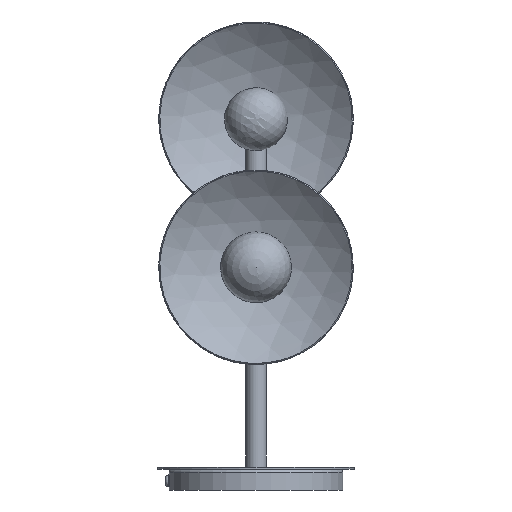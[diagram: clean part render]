
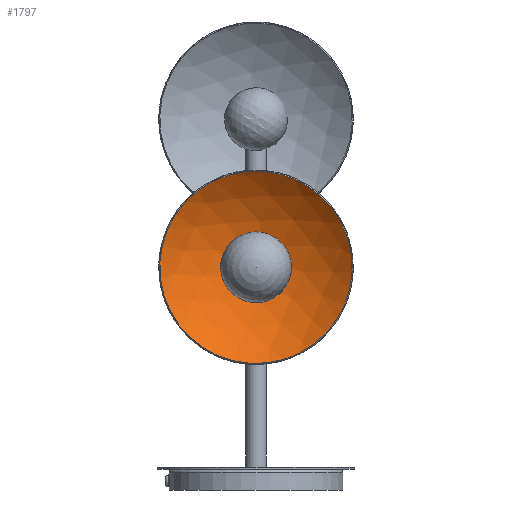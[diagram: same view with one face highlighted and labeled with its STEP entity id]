
A CAD part, front view. The second image highlights one B-rep face of the part: STEP entity #1797.
In plain terms, the highlighted spherical face has radius 90 mm.
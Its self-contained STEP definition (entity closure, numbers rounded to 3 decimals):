
#45=SPHERICAL_SURFACE('',#2069,90.);
#88=FACE_BOUND('',#388,.T.);
#234=FACE_OUTER_BOUND('',#387,.T.);
#387=EDGE_LOOP('',(#1449));
#388=EDGE_LOOP('',(#1450));
#434=B_SPLINE_CURVE_WITH_KNOTS('',3,(#3461,#3462,#3463,#3464,#3465,#3466,
#3467,#3468,#3469,#3470,#3471,#3472,#3473,#3474,#3475,#3476,#3477,#3478,
#3479,#3480,#3481,#3482,#3483,#3484,#3485,#3486,#3487,#3488,#3489,#3490,
#3491,#3492,#3493,#3494,#3495,#3496,#3497,#3498,#3499,#3500,#3501,#3502,
#3503,#3504,#3505,#3506,#3507,#3508,#3509,#3510,#3511,#3512,#3513,#3514,
#3515,#3516,#3517,#3518,#3519,#3520,#3521,#3522,#3523,#3524,#3525,#3526,
#3527,#3528,#3529,#3530,#3531,#3532,#3533,#3534,#3535,#3536,#3537,#3538),
 .UNSPECIFIED.,.T.,.F.,(4,2,2,2,2,2,2,2,2,2,2,2,2,2,2,2,2,2,2,2,2,2,2,2,
2,2,2,2,2,2,2,2,2,2,2,2,2,2,4),(0.,0.153,0.306,
0.459,0.611,0.765,0.919,
1.226,1.535,1.844,2.154,2.464,
2.775,3.086,3.398,3.71,4.022,
4.335,4.648,4.961,5.274,5.587,
5.9,6.212,6.524,6.836,7.147,
7.458,7.769,8.079,8.388,8.697,
9.004,9.158,9.311,9.464,9.617,
9.77,9.922),.UNSPECIFIED.);
#564=CIRCLE('',#2070,60.832);
#818=VERTEX_POINT('',#3460);
#827=VERTEX_POINT('',#3647);
#1026=EDGE_CURVE('',#818,#818,#434,.T.);
#1043=EDGE_CURVE('',#827,#827,#564,.T.);
#1449=ORIENTED_EDGE('',*,*,#1043,.F.);
#1450=ORIENTED_EDGE('',*,*,#1026,.T.);
#1797=ADVANCED_FACE('',(#234,#88),#45,.F.);
#2069=AXIS2_PLACEMENT_3D('',#3646,#2610,#2611);
#2070=AXIS2_PLACEMENT_3D('',#3648,#2612,#2613);
#2610=DIRECTION('center_axis',(-0.919,0.,
0.393));
#2611=DIRECTION('ref_axis',(0.393,0.,0.919));
#2612=DIRECTION('center_axis',(0.,1.,0.));
#2613=DIRECTION('ref_axis',(0.393,0.,0.919));
#3460=CARTESIAN_POINT('',(-23.668,-372.982,132.263));
#3461=CARTESIAN_POINT('Ctrl Pts',(-23.668,-372.982,132.263));
#3462=CARTESIAN_POINT('Ctrl Pts',(-23.536,-372.983,132.755));
#3463=CARTESIAN_POINT('Ctrl Pts',(-23.375,-372.985,133.263));
#3464=CARTESIAN_POINT('Ctrl Pts',(-22.992,-372.987,134.282));
#3465=CARTESIAN_POINT('Ctrl Pts',(-22.772,-372.989,134.793));
#3466=CARTESIAN_POINT('Ctrl Pts',(-22.279,-372.991,135.789));
#3467=CARTESIAN_POINT('Ctrl Pts',(-22.007,-372.993,136.274));
#3468=CARTESIAN_POINT('Ctrl Pts',(-21.429,-372.996,137.197));
#3469=CARTESIAN_POINT('Ctrl Pts',(-21.123,-372.997,137.634));
#3470=CARTESIAN_POINT('Ctrl Pts',(-20.5,-373.,138.445));
#3471=CARTESIAN_POINT('Ctrl Pts',(-20.154,-373.001,138.855));
#3472=CARTESIAN_POINT('Ctrl Pts',(-19.406,-373.004,139.655));
#3473=CARTESIAN_POINT('Ctrl Pts',(-19.004,-373.005,140.044));
#3474=CARTESIAN_POINT('Ctrl Pts',(-17.742,-373.01,141.148));
#3475=CARTESIAN_POINT('Ctrl Pts',(-16.822,-373.013,141.794));
#3476=CARTESIAN_POINT('Ctrl Pts',(-15.041,-373.018,142.817));
#3477=CARTESIAN_POINT('Ctrl Pts',(-14.016,-373.021,143.289));
#3478=CARTESIAN_POINT('Ctrl Pts',(-11.89,-373.027,144.004));
#3479=CARTESIAN_POINT('Ctrl Pts',(-10.789,-373.03,144.248));
#3480=CARTESIAN_POINT('Ctrl Pts',(-8.743,-373.036,144.511));
#3481=CARTESIAN_POINT('Ctrl Pts',(-7.61,-373.039,144.554));
#3482=CARTESIAN_POINT('Ctrl Pts',(-5.36,-373.044,144.397));
#3483=CARTESIAN_POINT('Ctrl Pts',(-4.244,-373.047,144.198));
#3484=CARTESIAN_POINT('Ctrl Pts',(-2.247,-373.052,143.653));
#3485=CARTESIAN_POINT('Ctrl Pts',(-1.182,-373.054,143.256));
#3486=CARTESIAN_POINT('Ctrl Pts',(0.839,-373.059,142.245));
#3487=CARTESIAN_POINT('Ctrl Pts',(1.795,-373.062,141.631));
#3488=CARTESIAN_POINT('Ctrl Pts',(3.434,-373.066,140.356));
#3489=CARTESIAN_POINT('Ctrl Pts',(4.267,-373.068,139.578));
#3490=CARTESIAN_POINT('Ctrl Pts',(5.749,-373.072,137.862));
#3491=CARTESIAN_POINT('Ctrl Pts',(6.399,-373.073,136.924));
#3492=CARTESIAN_POINT('Ctrl Pts',(7.424,-373.076,135.112));
#3493=CARTESIAN_POINT('Ctrl Pts',(7.894,-373.078,134.071));
#3494=CARTESIAN_POINT('Ctrl Pts',(8.604,-373.08,131.912));
#3495=CARTESIAN_POINT('Ctrl Pts',(8.842,-373.081,130.794));
#3496=CARTESIAN_POINT('Ctrl Pts',(9.092,-373.083,128.724));
#3497=CARTESIAN_POINT('Ctrl Pts',(9.125,-373.083,127.58));
#3498=CARTESIAN_POINT('Ctrl Pts',(8.948,-373.084,125.312));
#3499=CARTESIAN_POINT('Ctrl Pts',(8.738,-373.084,124.188));
#3500=CARTESIAN_POINT('Ctrl Pts',(8.17,-373.084,122.179));
#3501=CARTESIAN_POINT('Ctrl Pts',(7.761,-373.084,121.111));
#3502=CARTESIAN_POINT('Ctrl Pts',(6.724,-373.083,119.086));
#3503=CARTESIAN_POINT('Ctrl Pts',(6.097,-373.083,118.129));
#3504=CARTESIAN_POINT('Ctrl Pts',(4.801,-373.081,116.495));
#3505=CARTESIAN_POINT('Ctrl Pts',(4.012,-373.08,115.668));
#3506=CARTESIAN_POINT('Ctrl Pts',(2.278,-373.078,114.2));
#3507=CARTESIAN_POINT('Ctrl Pts',(1.332,-373.076,113.559));
#3508=CARTESIAN_POINT('Ctrl Pts',(-0.49,-373.073,
112.552));
#3509=CARTESIAN_POINT('Ctrl Pts',(-1.534,-373.072,112.093));
#3510=CARTESIAN_POINT('Ctrl Pts',(-3.695,-373.068,111.407));
#3511=CARTESIAN_POINT('Ctrl Pts',(-4.812,-373.066,111.179));
#3512=CARTESIAN_POINT('Ctrl Pts',(-6.876,-373.062,110.951));
#3513=CARTESIAN_POINT('Ctrl Pts',(-8.012,-373.059,110.929));
#3514=CARTESIAN_POINT('Ctrl Pts',(-10.264,-373.054,111.126));
#3515=CARTESIAN_POINT('Ctrl Pts',(-11.379,-373.052,111.344));
#3516=CARTESIAN_POINT('Ctrl Pts',(-13.367,-373.047,111.925));
#3517=CARTESIAN_POINT('Ctrl Pts',(-14.423,-373.044,112.341));
#3518=CARTESIAN_POINT('Ctrl Pts',(-16.423,-373.039,113.386));
#3519=CARTESIAN_POINT('Ctrl Pts',(-17.367,-373.036,114.016));
#3520=CARTESIAN_POINT('Ctrl Pts',(-18.973,-373.03,115.313));
#3521=CARTESIAN_POINT('Ctrl Pts',(-19.785,-373.027,116.099));
#3522=CARTESIAN_POINT('Ctrl Pts',(-21.222,-373.021,117.824));
#3523=CARTESIAN_POINT('Ctrl Pts',(-21.848,-373.018,118.763));
#3524=CARTESIAN_POINT('Ctrl Pts',(-22.828,-373.013,120.568));
#3525=CARTESIAN_POINT('Ctrl Pts',(-23.273,-373.01,121.6));
#3526=CARTESIAN_POINT('Ctrl Pts',(-23.77,-373.005,123.199));
#3527=CARTESIAN_POINT('Ctrl Pts',(-23.908,-373.004,123.741));
#3528=CARTESIAN_POINT('Ctrl Pts',(-24.126,-373.001,124.813));
#3529=CARTESIAN_POINT('Ctrl Pts',(-24.206,-373.,125.344));
#3530=CARTESIAN_POINT('Ctrl Pts',(-24.312,-372.997,126.359));
#3531=CARTESIAN_POINT('Ctrl Pts',(-24.344,-372.996,126.892));
#3532=CARTESIAN_POINT('Ctrl Pts',(-24.353,-372.993,127.979));
#3533=CARTESIAN_POINT('Ctrl Pts',(-24.33,-372.991,128.535));
#3534=CARTESIAN_POINT('Ctrl Pts',(-24.228,-372.989,129.64));
#3535=CARTESIAN_POINT('Ctrl Pts',(-24.149,-372.987,130.19));
#3536=CARTESIAN_POINT('Ctrl Pts',(-23.942,-372.985,131.258));
#3537=CARTESIAN_POINT('Ctrl Pts',(-23.813,-372.983,131.775));
#3538=CARTESIAN_POINT('Ctrl Pts',(-23.668,-372.982,132.263));
#3646=CARTESIAN_POINT('Origin',(-7.868,-461.472,127.797));
#3647=CARTESIAN_POINT('',(16.061,-395.143,183.724));
#3648=CARTESIAN_POINT('Origin',(-7.868,-395.143,127.797));
